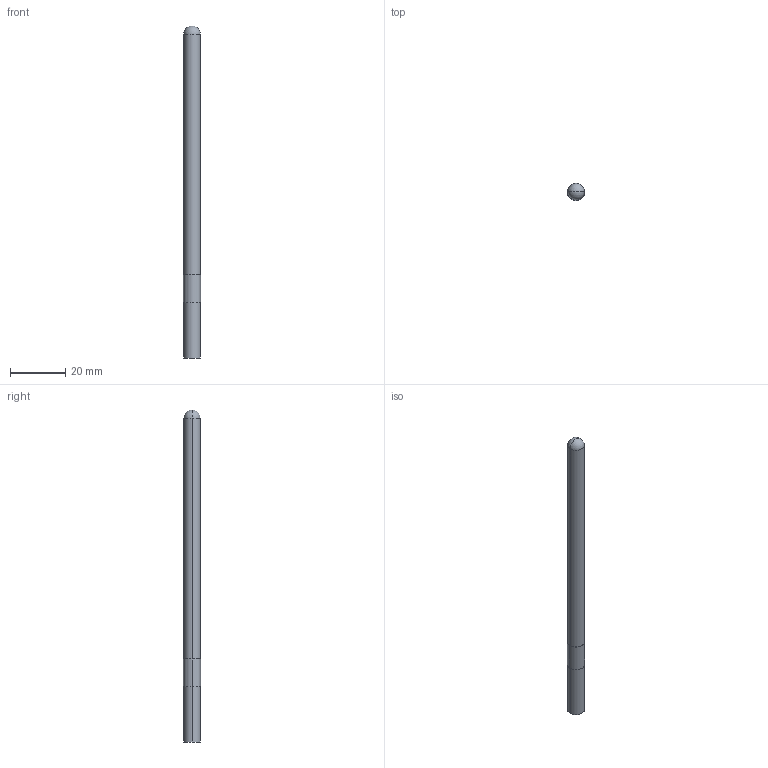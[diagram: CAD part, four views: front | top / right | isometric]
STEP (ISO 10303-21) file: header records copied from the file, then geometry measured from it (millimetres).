
FILE_DESCRIPTION (( 'STEP AP203' ), '1' );
FILE_NAME ('HTF100-PT1000-PVC-2.STEP', '2019-10-08T11:52:37', ( '' ), ( '' ), 'SwSTEP 2.0', 'SolidWorks 2016', '' );
FILE_SCHEMA (( 'CONFIG_CONTROL_DESIGN' ));
Length unit declared in the file: millimetre
Products named in the file (1): HTF100-PT1000-PVC-2
Bounding box: 6.2 x 6.2 x 120 mm (x, y, z)
Volume: 3383.8 mm3; surface area: 2300.3 mm2
Topology: 1 solids, 1 shells, 11 faces, 24 edges, 15 vertices
Faces by surface type: cylinder 6, plane 3, sphere 2
Entity records: 357 total; most frequent: DIRECTION 58, CARTESIAN_POINT 45, ORIENTED_EDGE 40, AXIS2_PLACEMENT_3D 26, EDGE_CURVE 20, CIRCLE 14, VERTEX_POINT 13, EDGE_LOOP 13
